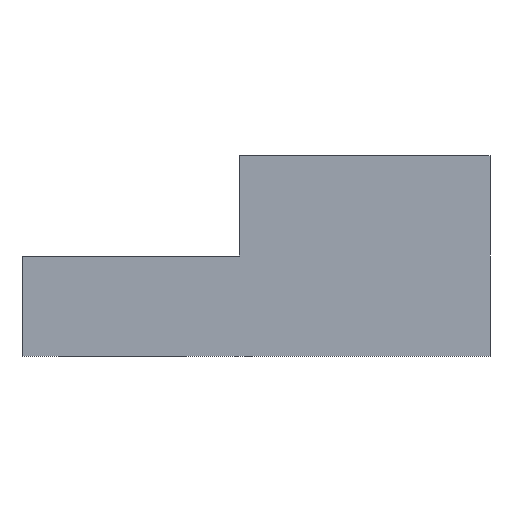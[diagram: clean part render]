
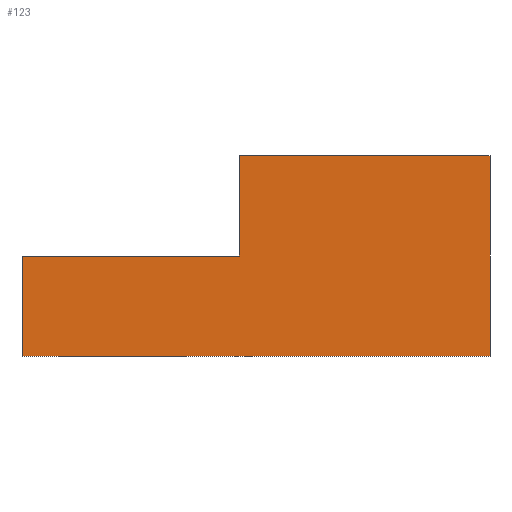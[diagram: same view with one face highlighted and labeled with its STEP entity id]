
A CAD part, front view. The second image highlights one B-rep face of the part: STEP entity #123.
In plain terms, the highlighted planar face has unit normal (0, -1, 0).
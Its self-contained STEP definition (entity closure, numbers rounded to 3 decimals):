
#68=CARTESIAN_POINT('',(11.,-11.5,0.0));
#69=DIRECTION('',(0.0,-1.0,0.0));
#70=DIRECTION('',(0.0,0.0,-1.0));
#71=AXIS2_PLACEMENT_3D('',#68,#69,#70);
#72=PLANE('',#71);
#73=CARTESIAN_POINT('',(3.5,-11.5,3.));
#74=VERTEX_POINT('',#73);
#75=CARTESIAN_POINT('',(-3.,-11.5,3.));
#76=VERTEX_POINT('',#75);
#77=CARTESIAN_POINT('',(3.5,-11.5,3.));
#78=DIRECTION('',(-1.0,0.0,0.0));
#79=VECTOR('',#78,6.5);
#80=LINE('',#77,#79);
#81=EDGE_CURVE('',#74,#76,#80,.T.);
#82=ORIENTED_EDGE('',*,*,#81,.T.);
#83=CARTESIAN_POINT('',(-3.,-11.5,0.0));
#84=VERTEX_POINT('',#83);
#85=CARTESIAN_POINT('',(-3.,-11.5,0.0));
#86=DIRECTION('',(0.0,0.0,1.0));
#87=VECTOR('',#86,3.);
#88=LINE('',#85,#87);
#89=EDGE_CURVE('',#84,#76,#88,.T.);
#90=ORIENTED_EDGE('',*,*,#89,.F.);
#91=CARTESIAN_POINT('',(11.,-11.5,0.0));
#92=VERTEX_POINT('',#91);
#93=CARTESIAN_POINT('',(-3.,-11.5,0.0));
#94=DIRECTION('',(1.0,0.0,0.0));
#95=VECTOR('',#94,14.);
#96=LINE('',#93,#95);
#97=EDGE_CURVE('',#84,#92,#96,.T.);
#98=ORIENTED_EDGE('',*,*,#97,.T.);
#99=CARTESIAN_POINT('',(11.,-11.5,6.));
#100=VERTEX_POINT('',#99);
#101=CARTESIAN_POINT('',(11.,-11.5,0.0));
#102=DIRECTION('',(0.0,0.0,1.0));
#103=VECTOR('',#102,6.);
#104=LINE('',#101,#103);
#105=EDGE_CURVE('',#92,#100,#104,.T.);
#106=ORIENTED_EDGE('',*,*,#105,.T.);
#107=CARTESIAN_POINT('',(3.5,-11.5,6.));
#108=VERTEX_POINT('',#107);
#109=CARTESIAN_POINT('',(11.,-11.5,6.));
#110=DIRECTION('',(-1.0,0.0,0.0));
#111=VECTOR('',#110,7.5);
#112=LINE('',#109,#111);
#113=EDGE_CURVE('',#100,#108,#112,.T.);
#114=ORIENTED_EDGE('',*,*,#113,.T.);
#115=CARTESIAN_POINT('',(3.5,-11.5,3.));
#116=DIRECTION('',(0.0,0.0,1.0));
#117=VECTOR('',#116,3.);
#118=LINE('',#115,#117);
#119=EDGE_CURVE('',#74,#108,#118,.T.);
#120=ORIENTED_EDGE('',*,*,#119,.F.);
#121=EDGE_LOOP('',(#82,#90,#98,#106,#114,#120));
#122=FACE_OUTER_BOUND('',#121,.T.);
#123=ADVANCED_FACE('',(#122),#72,.T.);
